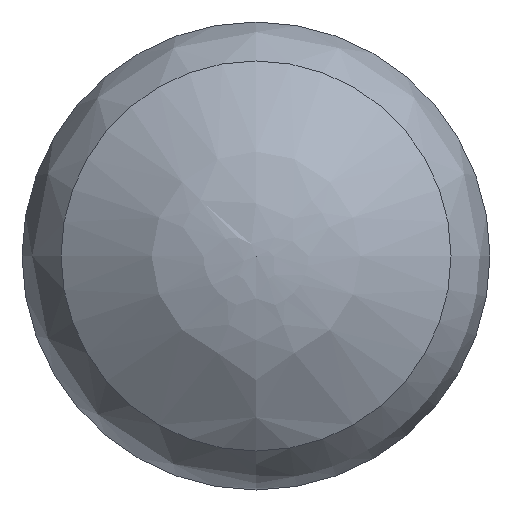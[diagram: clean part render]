
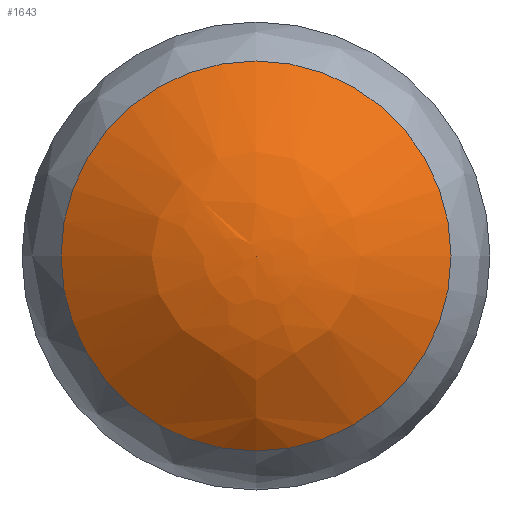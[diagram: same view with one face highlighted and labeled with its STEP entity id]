
A CAD part, front view. The second image highlights one B-rep face of the part: STEP entity #1643.
In plain terms, the highlighted free-form (B-spline) face has degree [2, 2] with [3, 9] control points.
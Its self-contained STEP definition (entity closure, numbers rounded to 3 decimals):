
#14=(
BOUNDED_SURFACE()
B_SPLINE_SURFACE(2,2,((#3274,#3275,#3276,#3277,#3278,#3279,#3280,#3281,
#3282),(#3283,#3284,#3285,#3286,#3287,#3288,#3289,#3290,#3291),(#3292,#3293,
#3294,#3295,#3296,#3297,#3298,#3299,#3300)),.UNSPECIFIED.,.F.,.T.,.F.)
B_SPLINE_SURFACE_WITH_KNOTS((3,3),(3,2,2,2,3),(-1.571,-0.841),
(-3.142,-1.571,0.,1.571,3.142),
 .UNSPECIFIED.)
GEOMETRIC_REPRESENTATION_ITEM()
RATIONAL_B_SPLINE_SURFACE(((1.,0.707,1.,0.707,1.,
0.707,1.,0.707,1.),(0.934,0.661,
0.934,0.661,0.934,0.661,
0.934,0.661,0.934),(1.,0.707,
1.,0.707,1.,0.707,1.,0.707,1.)))
REPRESENTATION_ITEM('')
SURFACE()
);
#236=FACE_OUTER_BOUND('',#332,.T.);
#332=EDGE_LOOP('',(#1429,#1430,#1431));
#576=CIRCLE('',#1819,16.667);
#577=CIRCLE('',#1820,25.);
#741=VERTEX_POINT('',#3301);
#742=VERTEX_POINT('',#3303);
#973=EDGE_CURVE('',#741,#741,#576,.T.);
#974=EDGE_CURVE('',#741,#742,#577,.T.);
#1429=ORIENTED_EDGE('',*,*,#973,.F.);
#1430=ORIENTED_EDGE('',*,*,#974,.T.);
#1431=ORIENTED_EDGE('',*,*,#974,.F.);
#1643=ADVANCED_FACE('',(#236),#14,.F.);
#1819=AXIS2_PLACEMENT_3D('',#3302,#2214,#2215);
#1820=AXIS2_PLACEMENT_3D('',#3304,#2216,#2217);
#2214=DIRECTION('center_axis',(0.,1.,0.));
#2215=DIRECTION('ref_axis',(1.,0.,0.));
#2216=DIRECTION('center_axis',(-1.,0.,0.));
#2217=DIRECTION('ref_axis',(0.,0.,-1.));
#3274=CARTESIAN_POINT('Ctrl Pts',(0.,0.,
0.));
#3275=CARTESIAN_POINT('Ctrl Pts',(0.,0.,
0.));
#3276=CARTESIAN_POINT('Ctrl Pts',(0.,0.,
0.));
#3277=CARTESIAN_POINT('Ctrl Pts',(0.,0.,
0.));
#3278=CARTESIAN_POINT('Ctrl Pts',(0.,0.,
0.));
#3279=CARTESIAN_POINT('Ctrl Pts',(0.,0.,
0.));
#3280=CARTESIAN_POINT('Ctrl Pts',(0.,0.,
0.));
#3281=CARTESIAN_POINT('Ctrl Pts',(0.,0.,
0.));
#3282=CARTESIAN_POINT('Ctrl Pts',(0.,0.,
0.));
#3283=CARTESIAN_POINT('Ctrl Pts',(0.,0.,
-9.549));
#3284=CARTESIAN_POINT('Ctrl Pts',(-9.549,0.,
-9.549));
#3285=CARTESIAN_POINT('Ctrl Pts',(-9.549,0.,
0.));
#3286=CARTESIAN_POINT('Ctrl Pts',(-9.549,0.,
9.549));
#3287=CARTESIAN_POINT('Ctrl Pts',(0.,0.,
9.549));
#3288=CARTESIAN_POINT('Ctrl Pts',(9.549,0.,
9.549));
#3289=CARTESIAN_POINT('Ctrl Pts',(9.549,0.,
0.));
#3290=CARTESIAN_POINT('Ctrl Pts',(9.549,0.,
-9.549));
#3291=CARTESIAN_POINT('Ctrl Pts',(0.,0.,
-9.549));
#3292=CARTESIAN_POINT('Ctrl Pts',(0.,6.366,
-16.667));
#3293=CARTESIAN_POINT('Ctrl Pts',(-16.667,6.366,-16.667));
#3294=CARTESIAN_POINT('Ctrl Pts',(-16.667,6.366,0.));
#3295=CARTESIAN_POINT('Ctrl Pts',(-16.667,6.366,16.667));
#3296=CARTESIAN_POINT('Ctrl Pts',(0.,6.366,
16.667));
#3297=CARTESIAN_POINT('Ctrl Pts',(16.667,6.366,16.667));
#3298=CARTESIAN_POINT('Ctrl Pts',(16.667,6.366,0.));
#3299=CARTESIAN_POINT('Ctrl Pts',(16.667,6.366,-16.667));
#3300=CARTESIAN_POINT('Ctrl Pts',(0.,6.366,
-16.667));
#3301=CARTESIAN_POINT('',(0.,6.366,-16.667));
#3302=CARTESIAN_POINT('Origin',(0.,6.366,0.));
#3303=CARTESIAN_POINT('',(0.,0.,0.));
#3304=CARTESIAN_POINT('Origin',(0.,25.,0.));
